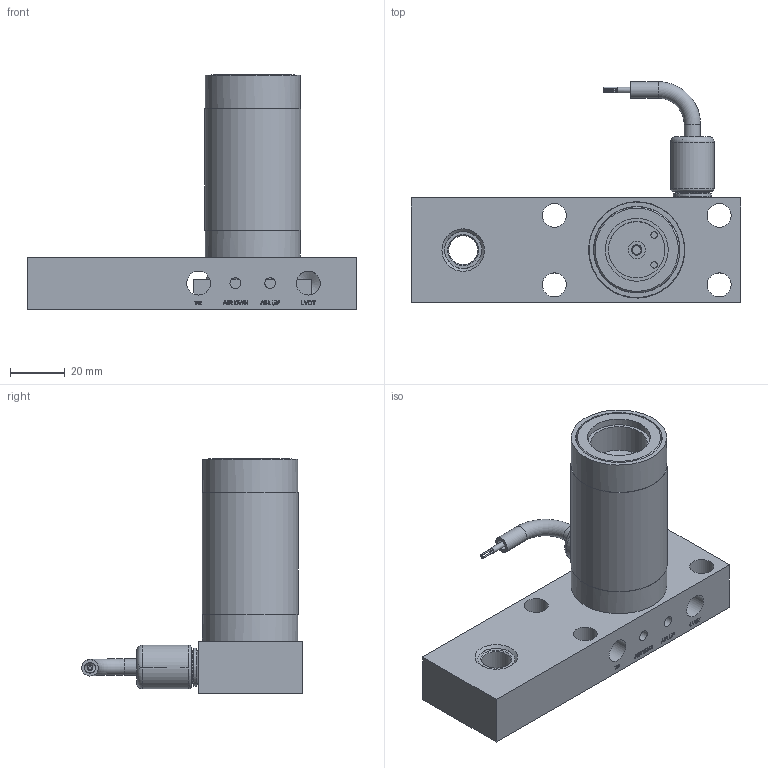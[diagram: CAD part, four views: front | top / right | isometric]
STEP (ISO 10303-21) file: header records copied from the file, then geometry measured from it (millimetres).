
FILE_DESCRIPTION(/* description */ ('ASSY,BODY,VF,LVDT,SXJR3,NHP'),/* implementation_level */ '2;1');
FILE_NAME(/* name */ 'C:\LVDT UPDATES\ASSY,BODY,VF,LVDT,SXJR3,NHP_0000843819.stp',/* time_stamp */ '2017-07-10T16:32:12-04:00',/* author */ ('tim.mcwilliams'),/* organization */ (''),/* preprocessor_version */ 'ST-DEVELOPER v16.5',/* originating_system */ 'Autodesk Inventor 2017',/* authorisation */ '');
FILE_SCHEMA (('AUTOMOTIVE_DESIGN { 1 0 10303 214 3 1 1 }'));
Products named in the file (1): ASSY,BODY,VF,LVDT,SXJR3,NHP
Bounding box: 120.65 x 80.63 x 85.72 mm (x, y, z)
Volume: 126064 mm3; surface area: 55983.2 mm2
Topology: 2 solids, 7 shells, 1223 faces, 3236 edges, 2143 vertices
Faces by surface type: plane 633, bspline 412, cylinder 125, cone 44, torus 9
Full cylindrical faces by diameter (mm): 0.5 x4, 2 x1, 2.381 x2, 3.15 x2, 3.175 x2, 3.81 x1, 3.962 x4, 4 x3, 4.763 x1, 6 x3, 6.35 x1, 8 x1, 8.731 x4, 8.738 x4, 10 x1, 10.592 x1, 12.01 x1, 12.141 x1, 12.7 x2, 13.665 x1, 13.716 x1, 14 x2, 15.206 x1, 16 x1, 20.637 x2, 23.019 x1, 28.829 x4, 31.496 x4, 31.623 x2, 34.925 x2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
Entity records: 92412 total; most frequent: CARTESIAN_POINT 64121, ORIENTED_EDGE 6098, DIRECTION 4312, EDGE_CURVE 3048, VERTEX_POINT 2065, LINE 1840, VECTOR 1840, EDGE_LOOP 1463
